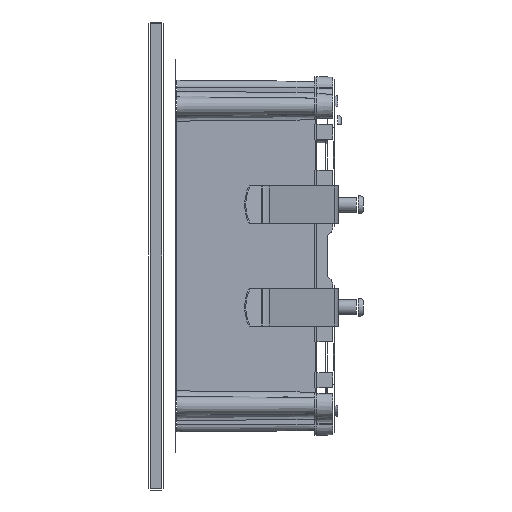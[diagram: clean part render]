
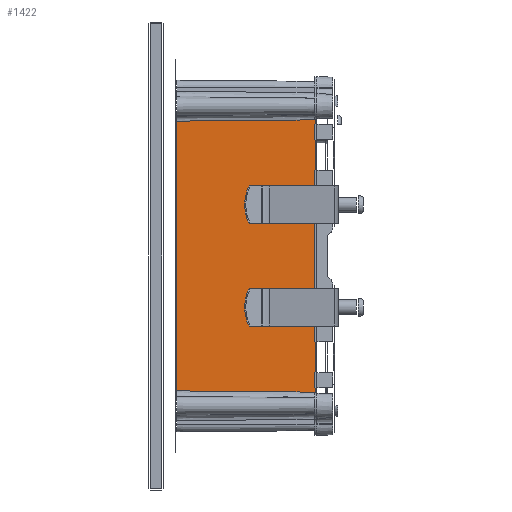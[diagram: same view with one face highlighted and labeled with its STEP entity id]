
A CAD part, left-side view. The second image highlights one B-rep face of the part: STEP entity #1422.
In plain terms, the highlighted planar face has unit normal (-1, -0.009, 0).
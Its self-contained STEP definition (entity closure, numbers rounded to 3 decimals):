
#479=DIRECTION('',(0.,0.,1.));
#480=VECTOR('',#479,72.049);
#481=CARTESIAN_POINT('',(-34.476,10.203,-36.025));
#482=LINE('',#481,#480);
#483=CARTESIAN_POINT('',(-34.476,10.203,36.025));
#484=CARTESIAN_POINT('',(-34.449,7.142,36.051));
#485=CARTESIAN_POINT('',(-34.395,0.96,36.106));
#486=CARTESIAN_POINT('',(-34.311,-8.694,36.194));
#487=CARTESIAN_POINT('',(-34.228,-18.152,36.282));
#488=CARTESIAN_POINT('',(-34.177,-23.978,36.337));
#489=CARTESIAN_POINT('',(-34.153,-26.8,36.364));
#491=DIRECTION('',(0.,0.,-1.));
#492=VECTOR('',#491,72.728);
#493=CARTESIAN_POINT('',(-34.153,-26.8,36.364));
#494=LINE('',#493,#492);
#495=CARTESIAN_POINT('',(-34.153,-26.8,
-36.364));
#496=CARTESIAN_POINT('',(-34.177,-23.989,
-36.337));
#497=CARTESIAN_POINT('',(-34.227,-18.266,
-36.283));
#498=CARTESIAN_POINT('',(-34.304,-9.501,
-36.201));
#499=CARTESIAN_POINT('',(-34.385,-0.181,
-36.116));
#500=CARTESIAN_POINT('',(-34.445,6.652,-36.056));
#501=CARTESIAN_POINT('',(-34.476,10.203,-36.025));
#658=CARTESIAN_POINT('',(-34.476,10.203,-36.025));
#1055=CARTESIAN_POINT('',(-34.153,-26.8,
-36.364));
#1056=CARTESIAN_POINT('',(-34.153,-26.8,
36.364));
#1057=VERTEX_POINT('',#1055);
#1058=VERTEX_POINT('',#1056);
#1129=VERTEX_POINT('',#658);
#1131=CARTESIAN_POINT('',(-34.476,10.203,36.025));
#1132=VERTEX_POINT('',#1131);
#1407=CARTESIAN_POINT('',(-34.5,13.,-48.12));
#1408=DIRECTION('',(-1.,-0.009,0.));
#1409=DIRECTION('',(0.,0.,1.));
#1410=AXIS2_PLACEMENT_3D('',#1407,#1408,#1409);
#1411=PLANE('',#1410);
#1413=ORIENTED_EDGE('',*,*,#1412,.T.);
#1415=ORIENTED_EDGE('',*,*,#1414,.T.);
#1417=ORIENTED_EDGE('',*,*,#1416,.T.);
#1419=ORIENTED_EDGE('',*,*,#1418,.T.);
#1420=EDGE_LOOP('',(#1413,#1415,#1417,#1419));
#1421=FACE_OUTER_BOUND('',#1420,.F.);
#1422=ADVANCED_FACE('',(#1421),#1411,.T.);
#490=B_SPLINE_CURVE_WITH_KNOTS('',3,(#483,#484,#485,#486,#487,#488,#489),
.UNSPECIFIED.,.F.,.F.,(4,1,1,1,4),(0.,0.25,0.5,0.75,1.),
.UNSPECIFIED.);
#502=B_SPLINE_CURVE_WITH_KNOTS('',3,(#495,#496,#497,#498,#499,#500,#501),
.UNSPECIFIED.,.F.,.F.,(4,1,1,1,4),(0.,0.25,0.5,0.75,1.),
.UNSPECIFIED.);
#1412=EDGE_CURVE('',#1129,#1132,#482,.T.);
#1414=EDGE_CURVE('',#1132,#1058,#490,.T.);
#1416=EDGE_CURVE('',#1058,#1057,#494,.T.);
#1418=EDGE_CURVE('',#1057,#1129,#502,.T.);
